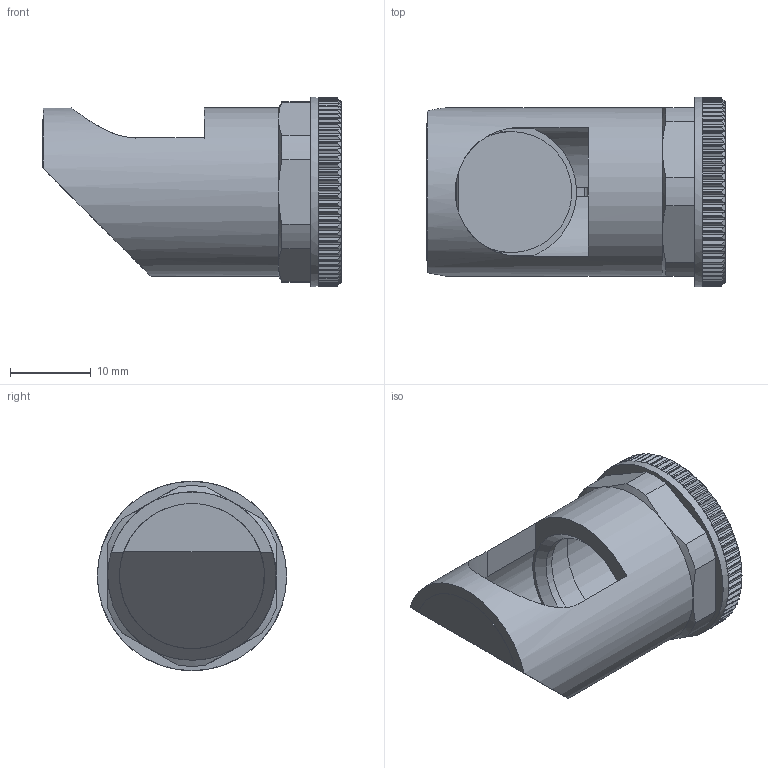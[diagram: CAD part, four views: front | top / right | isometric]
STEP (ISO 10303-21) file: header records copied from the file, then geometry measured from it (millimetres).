
FILE_DESCRIPTION( ( 'Unknown' ), '1' );
FILE_NAME( 'C:/Users/acasucci/Desktop/ST 03-U/ST 03-U.stp', 'Unknown', ( 'Unknown' ), ( 'Unknown' ), 'PSStep 17.0.49', 'Unknown', ' ' );
FILE_SCHEMA( ( 'AUTOMOTIVE_DESIGN { 1 0 10303 214 1 1 1 1 }' ) );
Length unit declared in the file: millimetre
Products named in the file (4): Assem1
Assembly tree (3 placements, depth 2):
  Assem1
    (unnamed)
    (unnamed)
    (unnamed)
Bounding box: 37.03 x 23.5 x 23.5 mm (x, y, z)
Volume: 5262.4 mm3; surface area: 5687 mm2
Topology: 3 solids, 3 shells, 370 faces, 1074 edges, 713 vertices
Faces by surface type: plane 192, cylinder 167, cone 9, extrusion 1, torus 1
Full cylindrical faces by diameter (mm): 7 x1, 14.3 x1, 16.917 x2, 18 x1, 20.9 x1, 23.5 x1
Entity records: 13817 total; most frequent: CARTESIAN_POINT 4452, ORIENTED_EDGE 2116, DIRECTION 1722, EDGE_CURVE 1058, VERTEX_POINT 707, AXIS2_PLACEMENT_3D 602, VECTOR 518, LINE 517
